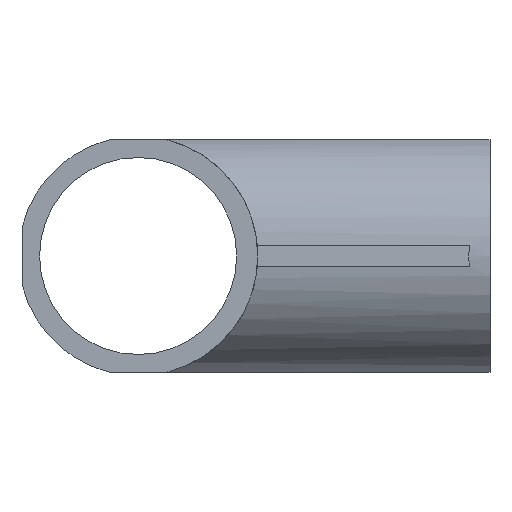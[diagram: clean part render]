
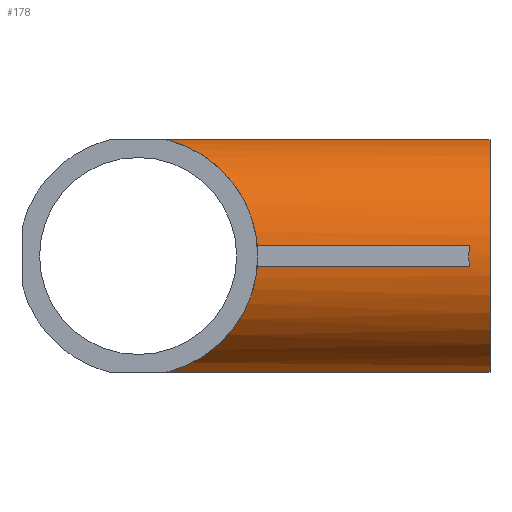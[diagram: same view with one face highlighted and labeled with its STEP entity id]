
A CAD part, front view. The second image highlights one B-rep face of the part: STEP entity #178.
In plain terms, the highlighted cylindrical face has radius 17 mm (diameter 34 mm), a partial arc.
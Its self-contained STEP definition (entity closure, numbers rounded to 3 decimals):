
#11 = VERTEX_POINT ( 'NONE', #140 ) ;
#13 = CYLINDRICAL_SURFACE ( 'NONE', #217, 17. ) ;
#17 = CARTESIAN_POINT ( 'NONE',  ( 47.066, -16.934, -1.5 ) ) ;
#18 = FACE_OUTER_BOUND ( 'NONE', #600, .T. ) ;
#22 = DIRECTION ( 'NONE',  ( 1., 0., 0. ) ) ;
#36 = EDGE_CURVE ( 'NONE', #537, #691, #248, .T. ) ;
#39 = CARTESIAN_POINT ( 'NONE',  ( 47.066, -16.934, 1.5 ) ) ;
#45 = VECTOR ( 'NONE', #656, 1000. ) ;
#91 = VECTOR ( 'NONE', #116, 1000. ) ;
#114 = CARTESIAN_POINT ( 'NONE',  ( 16.271, -16.271, -8.984 ) ) ;
#115 =( BOUNDED_CURVE ( )  B_SPLINE_CURVE ( 3, ( #349, #522, #593, #701 ),
 .UNSPECIFIED., .F., .F. ) 
 B_SPLINE_CURVE_WITH_KNOTS ( ( 4, 4 ),
 ( 0.088, 1.328 ),
 .UNSPECIFIED. ) 
 CURVE ( )  GEOMETRIC_REPRESENTATION_ITEM ( )  RATIONAL_B_SPLINE_CURVE ( ( 1., 0.876, 0.876, 1. ) ) 
 REPRESENTATION_ITEM ( '' )  );
#116 = DIRECTION ( 'NONE',  ( -1., 0., 0. ) ) ;
#125 = CARTESIAN_POINT ( 'NONE',  ( 16.934, -16.934, -1.5 ) ) ;
#133 = CARTESIAN_POINT ( 'NONE',  ( 50., -4.093, -16.5 ) ) ;
#135 = CARTESIAN_POINT ( 'NONE',  ( -17.001, -4.093, 16.5 ) ) ;
#140 = CARTESIAN_POINT ( 'NONE',  ( 4.093, -4.093, 16.5 ) ) ;
#160 = CARTESIAN_POINT ( 'NONE',  ( 50., 0., 0. ) ) ;
#168 = CARTESIAN_POINT ( 'NONE',  ( 50., -4.093, 16.5 ) ) ;
#169 =( BOUNDED_CURVE ( )  B_SPLINE_CURVE ( 3, ( #39, #676, #508, #458 ),
 .UNSPECIFIED., .F., .F. ) 
 B_SPLINE_CURVE_WITH_KNOTS ( ( 4, 4 ),
 ( 3.053, 3.23 ),
 .UNSPECIFIED. ) 
 CURVE ( )  GEOMETRIC_REPRESENTATION_ITEM ( )  RATIONAL_B_SPLINE_CURVE ( ( 1., 0.997, 0.997, 1. ) ) 
 REPRESENTATION_ITEM ( '' )  );
#170 = VECTOR ( 'NONE', #490, 1000. ) ;
#173 = ORIENTED_EDGE ( 'NONE', *, *, #582, .F. ) ;
#177 = VERTEX_POINT ( 'NONE', #467 ) ;
#178 = ADVANCED_FACE ( 'NONE', ( #18 ), #13, .T. ) ;
#187 = CARTESIAN_POINT ( 'NONE',  ( 11.385, -11.385, -14.691 ) ) ;
#205 = VERTEX_POINT ( 'NONE', #638 ) ;
#209 = DIRECTION ( 'NONE',  ( 1., 0., 0. ) ) ;
#217 = AXIS2_PLACEMENT_3D ( 'NONE', #403, #22, #515 ) ;
#225 = EDGE_CURVE ( 'NONE', #266, #177, #530, .T. ) ;
#248 = CIRCLE ( 'NONE', #534, 17. ) ;
#262 = LINE ( 'NONE', #431, #170 ) ;
#266 = VERTEX_POINT ( 'NONE', #471 ) ;
#279 = DIRECTION ( 'NONE',  ( 0., 0., -1. ) ) ;
#301 = EDGE_CURVE ( 'NONE', #691, #205, #360, .T. ) ;
#349 = CARTESIAN_POINT ( 'NONE',  ( 16.934, -16.934, 1.5 ) ) ;
#352 = ORIENTED_EDGE ( 'NONE', *, *, #36, .F. ) ;
#360 = LINE ( 'NONE', #660, #45 ) ;
#370 = VECTOR ( 'NONE', #209, 1000. ) ;
#375 = LINE ( 'NONE', #135, #370 ) ;
#376 = EDGE_CURVE ( 'NONE', #11, #537, #375, .T. ) ;
#394 = ORIENTED_EDGE ( 'NONE', *, *, #682, .T. ) ;
#403 = CARTESIAN_POINT ( 'NONE',  ( -17.001, 0., 0. ) ) ;
#404 = ORIENTED_EDGE ( 'NONE', *, *, #301, .F. ) ;
#428 =( BOUNDED_CURVE ( )  B_SPLINE_CURVE ( 3, ( #590, #187, #114, #688 ),
 .UNSPECIFIED., .F., .T. ) 
 B_SPLINE_CURVE_WITH_KNOTS ( ( 4, 4 ),
 ( 4.956, 6.195 ),
 .UNSPECIFIED. ) 
 CURVE ( )  GEOMETRIC_REPRESENTATION_ITEM ( )  RATIONAL_B_SPLINE_CURVE ( ( 1., 0.876, 0.876, 1. ) ) 
 REPRESENTATION_ITEM ( '' )  );
#431 = CARTESIAN_POINT ( 'NONE',  ( -17.001, -16.934, -1.5 ) ) ;
#458 = CARTESIAN_POINT ( 'NONE',  ( 47.066, -16.934, -1.5 ) ) ;
#467 = CARTESIAN_POINT ( 'NONE',  ( 16.934, -16.934, 1.5 ) ) ;
#471 = CARTESIAN_POINT ( 'NONE',  ( 47.066, -16.934, 1.5 ) ) ;
#479 = CARTESIAN_POINT ( 'NONE',  ( -17.001, -16.934, 1.5 ) ) ;
#484 = ORIENTED_EDGE ( 'NONE', *, *, #562, .F. ) ;
#490 = DIRECTION ( 'NONE',  ( -1., 0., 0. ) ) ;
#508 = CARTESIAN_POINT ( 'NONE',  ( 46.978, -17.022, -0.501 ) ) ;
#509 = EDGE_CURVE ( 'NONE', #266, #620, #169, .T. ) ;
#515 = DIRECTION ( 'NONE',  ( 0., 0., -1. ) ) ;
#522 = CARTESIAN_POINT ( 'NONE',  ( 16.271, -16.271, 8.984 ) ) ;
#530 = LINE ( 'NONE', #479, #91 ) ;
#534 = AXIS2_PLACEMENT_3D ( 'NONE', #160, #683, #279 ) ;
#537 = VERTEX_POINT ( 'NONE', #168 ) ;
#562 = EDGE_CURVE ( 'NONE', #177, #11, #115, .T. ) ;
#581 = VERTEX_POINT ( 'NONE', #125 ) ;
#582 = EDGE_CURVE ( 'NONE', #205, #581, #428, .T. ) ;
#590 = CARTESIAN_POINT ( 'NONE',  ( 4.093, -4.093, -16.5 ) ) ;
#593 = CARTESIAN_POINT ( 'NONE',  ( 11.385, -11.385, 14.691 ) ) ;
#600 = EDGE_LOOP ( 'NONE', ( #717, #721, #394, #173, #404, #352, #627, #484 ) ) ;
#620 = VERTEX_POINT ( 'NONE', #17 ) ;
#627 = ORIENTED_EDGE ( 'NONE', *, *, #376, .F. ) ;
#638 = CARTESIAN_POINT ( 'NONE',  ( 4.093, -4.093, -16.5 ) ) ;
#656 = DIRECTION ( 'NONE',  ( -1., 0., 0. ) ) ;
#660 = CARTESIAN_POINT ( 'NONE',  ( -17.001, -4.093, -16.5 ) ) ;
#676 = CARTESIAN_POINT ( 'NONE',  ( 46.978, -17.022, 0.501 ) ) ;
#682 = EDGE_CURVE ( 'NONE', #620, #581, #262, .T. ) ;
#683 = DIRECTION ( 'NONE',  ( 1., 0., 0. ) ) ;
#688 = CARTESIAN_POINT ( 'NONE',  ( 16.934, -16.934, -1.5 ) ) ;
#691 = VERTEX_POINT ( 'NONE', #133 ) ;
#701 = CARTESIAN_POINT ( 'NONE',  ( 4.093, -4.093, 16.5 ) ) ;
#717 = ORIENTED_EDGE ( 'NONE', *, *, #225, .F. ) ;
#721 = ORIENTED_EDGE ( 'NONE', *, *, #509, .T. ) ;
